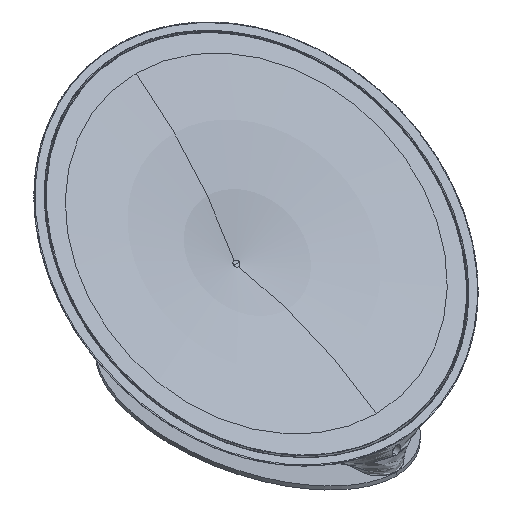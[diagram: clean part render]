
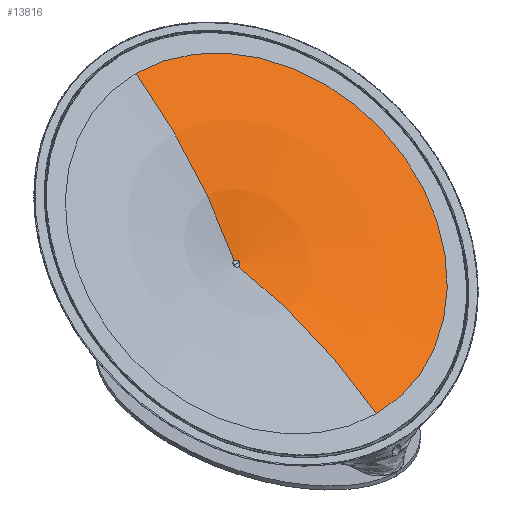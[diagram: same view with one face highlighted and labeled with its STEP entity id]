
A CAD part, isometric view. The second image highlights one B-rep face of the part: STEP entity #13816.
In plain terms, the highlighted toroidal (fillet/blend) face has major radius 86 mm and minor radius 191.967 mm.
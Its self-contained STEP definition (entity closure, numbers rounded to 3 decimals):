
#511 = VERTEX_POINT ( 'NONE', #7964 ) ;
#534 = DIRECTION ( 'NONE',  ( 0., -1., 0. ) ) ;
#542 = DIRECTION ( 'NONE',  ( 0., 0., -1. ) ) ;
#585 = AXIS2_PLACEMENT_3D ( 'NONE', #9961, #534, #10038 ) ;
#905 = CIRCLE ( 'NONE', #2876, 191.967 ) ;
#1524 = VERTEX_POINT ( 'NONE', #3556 ) ;
#1926 = CARTESIAN_POINT ( 'NONE',  ( 0., 191.967, 86. ) ) ;
#2548 = VERTEX_POINT ( 'NONE', #4167 ) ;
#2577 = EDGE_CURVE ( 'NONE', #511, #7228, #905, .T. ) ;
#2628 = EDGE_CURVE ( 'NONE', #1524, #7228, #6761, .T. ) ;
#2876 = AXIS2_PLACEMENT_3D ( 'NONE', #13527, #12304, #5398 ) ;
#3234 = TOROIDAL_SURFACE ( 'NONE', #13364, 86., 191.967 ) ;
#3556 = CARTESIAN_POINT ( 'NONE',  ( -1.6, 19.549, 0. ) ) ;
#4167 = CARTESIAN_POINT ( 'NONE',  ( 0., 19.549, 1.6 ) ) ;
#4479 = CARTESIAN_POINT ( 'NONE',  ( 0., 19.549, 0. ) ) ;
#4488 = VERTEX_POINT ( 'NONE', #6428 ) ;
#4956 = EDGE_CURVE ( 'NONE', #4488, #2548, #12050, .T. ) ;
#5398 = DIRECTION ( 'NONE',  ( 0., 0., 1. ) ) ;
#5542 = DIRECTION ( 'NONE',  ( 0., -1., 0. ) ) ;
#5563 = ORIENTED_EDGE ( 'NONE', *, *, #4956, .F. ) ;
#6026 = DIRECTION ( 'NONE',  ( 0., -1., 0. ) ) ;
#6428 = CARTESIAN_POINT ( 'NONE',  ( 0., 0., 86. ) ) ;
#6761 = CIRCLE ( 'NONE', #585, 1.6 ) ;
#7228 = VERTEX_POINT ( 'NONE', #9310 ) ;
#7270 = DIRECTION ( 'NONE',  ( 0., 0., -1. ) ) ;
#7964 = CARTESIAN_POINT ( 'NONE',  ( 0., 0., -86. ) ) ;
#8062 = ORIENTED_EDGE ( 'NONE', *, *, #9484, .T. ) ;
#8263 = CIRCLE ( 'NONE', #13949, 86. ) ;
#9040 = EDGE_CURVE ( 'NONE', #2548, #1524, #9756, .T. ) ;
#9310 = CARTESIAN_POINT ( 'NONE',  ( 0., 19.549, -1.6 ) ) ;
#9484 = EDGE_CURVE ( 'NONE', #4488, #511, #8263, .T. ) ;
#9756 = CIRCLE ( 'NONE', #11981, 1.6 ) ;
#9961 = CARTESIAN_POINT ( 'NONE',  ( 0., 19.549, 0. ) ) ;
#10038 = DIRECTION ( 'NONE',  ( 0., 0., -1. ) ) ;
#10213 = EDGE_LOOP ( 'NONE', ( #5563, #8062, #11572, #14901, #14589 ) ) ;
#10979 = FACE_OUTER_BOUND ( 'NONE', #10213, .T. ) ;
#11132 = DIRECTION ( 'NONE',  ( 1., 0., 0. ) ) ;
#11368 = DIRECTION ( 'NONE',  ( 0., 0., -1. ) ) ;
#11523 = DIRECTION ( 'NONE',  ( 0., -1., 0. ) ) ;
#11572 = ORIENTED_EDGE ( 'NONE', *, *, #2577, .T. ) ;
#11981 = AXIS2_PLACEMENT_3D ( 'NONE', #4479, #11523, #11368 ) ;
#12050 = CIRCLE ( 'NONE', #13768, 191.967 ) ;
#12304 = DIRECTION ( 'NONE',  ( -1., 0., 0. ) ) ;
#12666 = DIRECTION ( 'NONE',  ( 0., 0., -1. ) ) ;
#13364 = AXIS2_PLACEMENT_3D ( 'NONE', #14215, #6026, #7270 ) ;
#13527 = CARTESIAN_POINT ( 'NONE',  ( 0., 191.967, -86. ) ) ;
#13768 = AXIS2_PLACEMENT_3D ( 'NONE', #1926, #11132, #542 ) ;
#13816 = ADVANCED_FACE ( 'NONE', ( #10979 ), #3234, .T. ) ;
#13949 = AXIS2_PLACEMENT_3D ( 'NONE', #14676, #5542, #12666 ) ;
#14215 = CARTESIAN_POINT ( 'NONE',  ( 0., 191.967, 0. ) ) ;
#14589 = ORIENTED_EDGE ( 'NONE', *, *, #9040, .F. ) ;
#14676 = CARTESIAN_POINT ( 'NONE',  ( 0., 0., 0. ) ) ;
#14901 = ORIENTED_EDGE ( 'NONE', *, *, #2628, .F. ) ;
